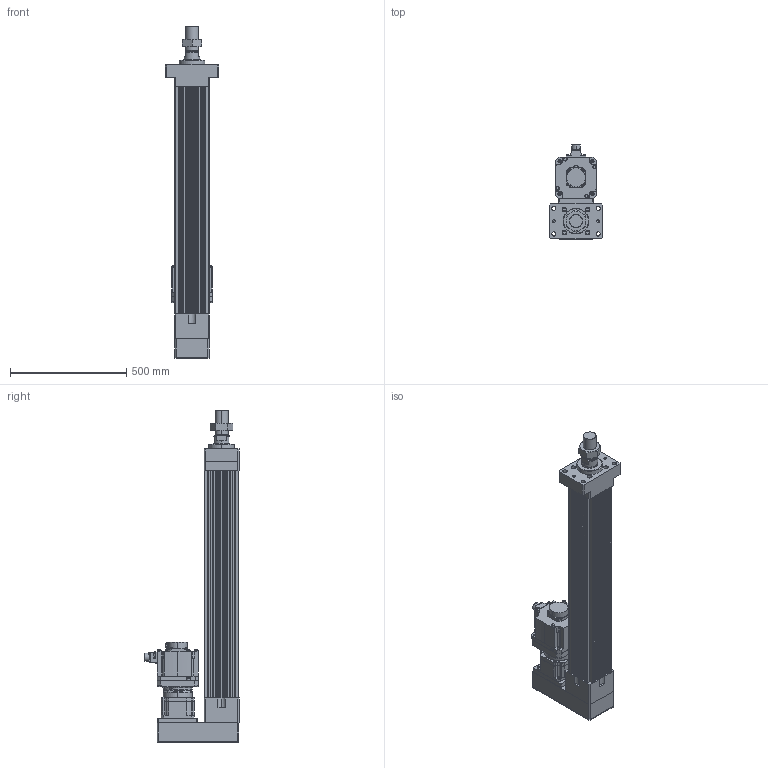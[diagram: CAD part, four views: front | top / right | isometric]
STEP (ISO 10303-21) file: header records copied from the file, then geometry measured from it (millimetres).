
FILE_DESCRIPTION (( 'STEP AP203' ), '1' );
FILE_NAME ('HES150NS(HS)-P700-W035G00-M-FMA.STEP', '2023-01-31T10:47:17', ( 'tms' ), ( '' ), 'SwSTEP 2.0', 'SolidWorks 2013', '' );
FILE_SCHEMA (( 'CONFIG_CONTROL_DESIGN' ));
Length unit declared in the file: millimetre
Products named in the file (9): M56X2.0P; P1301500001; AB1421; HES150NS(HS)-P700-W035G00-M-FMA; HES150 ROD M ST700; HG-SR352; HES150-P700-G142-FMA; AB142-003[HG-SR352]; P0403500801
Assembly tree (8 placements, depth 3):
  HES150NS(HS)-P700-W035G00-M-FMA
    HES150-P700-G142-FMA
    HES150 ROD M ST700
    M56X2.0P
    AB142-003[HG-SR352]
      AB1421
      P1301500001
      P0403500801
    HG-SR352
Bounding box: 230 x 403.85 x 1426 mm (x, y, z)
Volume: 22771011.9 mm3; surface area: 2317549.2 mm2
Topology: 4 solids, 18 shells, 1426 faces, 3722 edges, 2416 vertices
Faces by surface type: cylinder 669, plane 531, cone 144, bspline 76, torus 6
Entity records: 52806 total; most frequent: CARTESIAN_POINT 16363, DIRECTION 7620, ORIENTED_EDGE 7346, EDGE_CURVE 3695, AXIS2_PLACEMENT_3D 2898, VERTEX_POINT 2416, LINE 1824, VECTOR 1824
